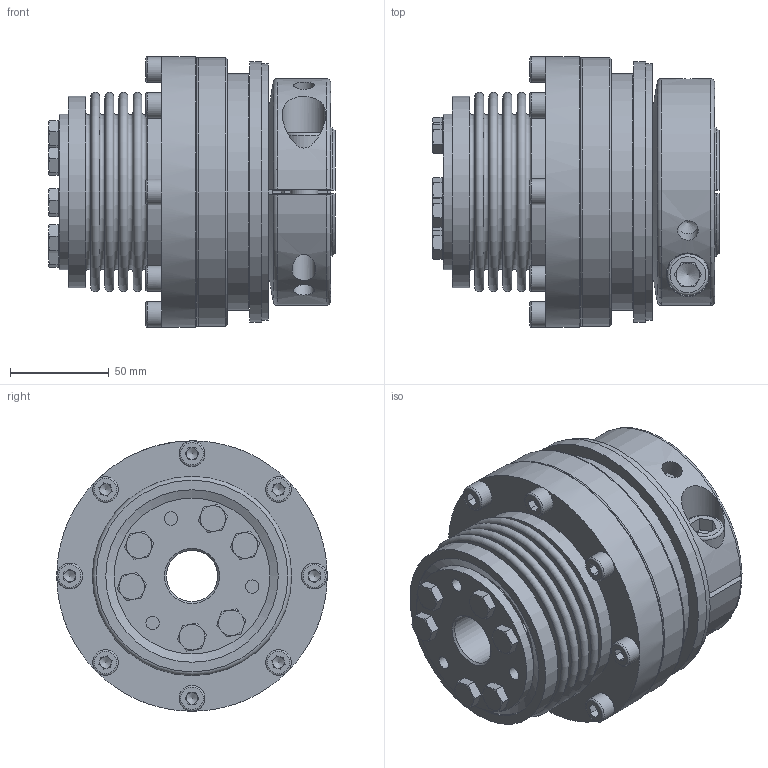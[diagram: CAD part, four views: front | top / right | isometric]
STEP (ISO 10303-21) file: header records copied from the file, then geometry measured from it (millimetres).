
FILE_DESCRIPTION( ( 'Unknown' ), '1' );
FILE_NAME( 'F:/JAKOB-STEP+IGES-Dateien/STEP-Dateien/SKB-KS/SKB-KS 500.stp', 'Unknown', ( 'Unknown' ), ( 'Unknown' ), 'PSStep 10.1', 'Unknown', ' ' );
FILE_SCHEMA( ( 'AUTOMOTIVE_DESIGN { 1 0 10303 214 1 1 1 1 }' ) );
Length unit declared in the file: millimetre
Products named in the file (1): 20710547-gebördelt
Bounding box: 145.3 x 137 x 137 mm (x, y, z)
Volume: 1132544.6 mm3; surface area: 259516.2 mm2
Topology: 1 solids, 12 shells, 582 faces, 1520 edges, 984 vertices
Faces by surface type: plane 293, cylinder 119, torus 80, cone 74, sphere 16
Full cylindrical faces by diameter (mm): 1.5 x1, 2.5 x2, 6.8 x18, 8 x14, 8.6 x14, 10.5 x3, 11.4 x6, 12 x1, 13 x8, 14 x1, 14.5 x1, 21 x1, 22 x1, 26 x1, 28 x1, 38 x1, 48.1 x1, 67 x1, 69.8 x1, 70 x2, 74 x1, 75 x1, 79 x1, 80 x1, 82.8 x2, 87.447 x1, 97.2 x2, 97.6 x2, 110 x3, 116.328 x2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
Entity records: 22566 total; most frequent: CARTESIAN_POINT 5085, DIRECTION 2642, ORIENTED_EDGE 2400, EDGE_CURVE 1200, AXIS2_PLACEMENT_3D 1096, EDGE_LOOP 875, VERTEX_POINT 857, FACE_OUTER_BOUND 708
